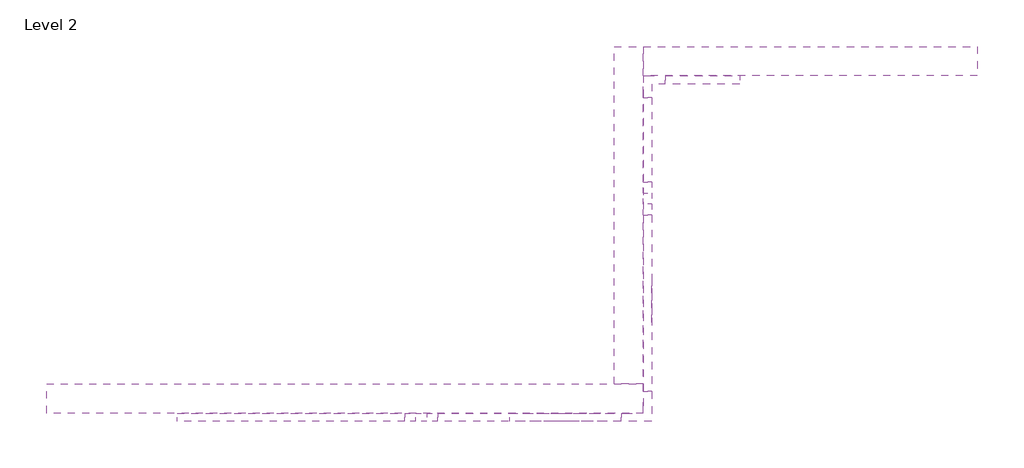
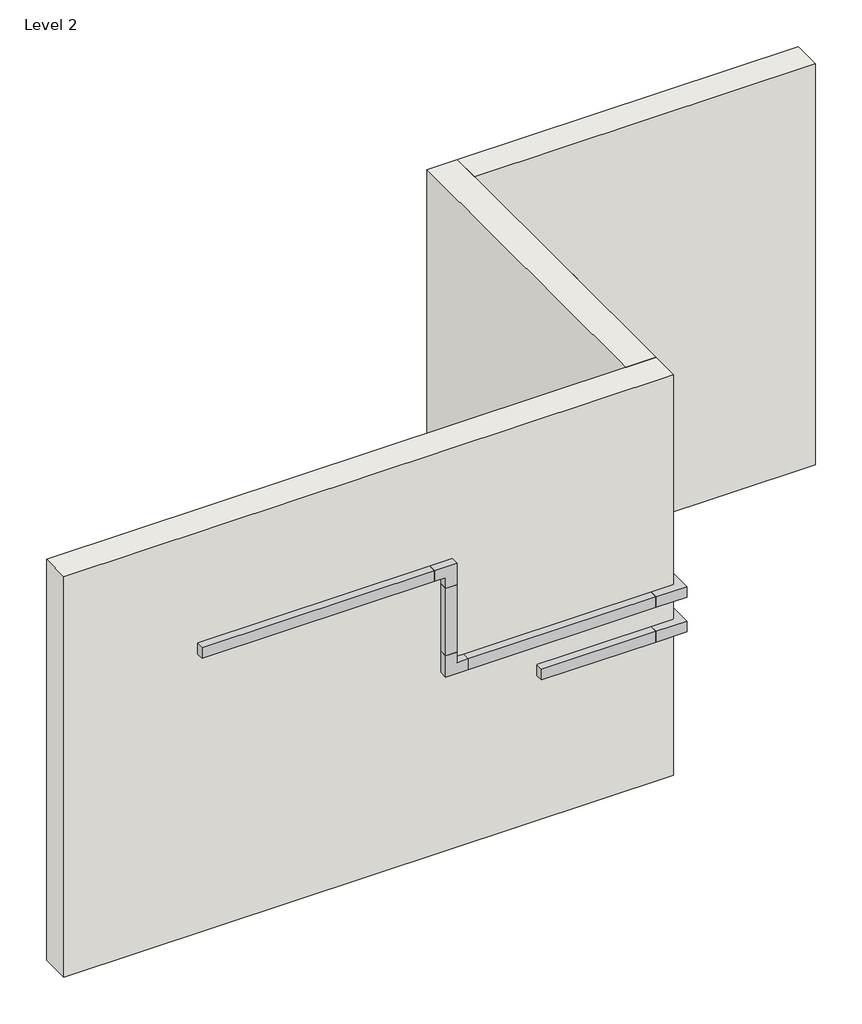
# One storey: 18 proxies, 3 walls.
"""IFC4 building model written with IfcOpenShell, lengths in millimetres."""

from ifc_helpers import new_model, si_unit, frame, origin, place, context, project, spatial, polyline, outline, extrude, faceted_brep, transform, mapped, element, save
from components import duplex_5642bea1, entrance_aea895b1, standard_6c6322a3, standard_3c440130, standard_4d54cb33, standard_987b61e0, standard_dac63bf7, standard_9e2f65c9, standard_67d72ea9, standard_ac4fb43b, standard_d824d0c1, standard_a486ae91, standard_0f524210, standard_84e361b9, standard_bd2f1e62

model = new_model("IFC4")

# Units and contexts
model_context = context("Model", 3, world=origin())
ifc_project = project(units=[si_unit("LENGTHUNIT", "METRE", prefix="MILLI")], contexts=[model_context])

# Site, building, storey
site = spatial("IfcSite", under=ifc_project)
building = spatial("IfcBuilding", under=site)
storey = spatial("IfcBuildingStorey", under=building, Name="Level 2", Elevation=3048.0)

# Proxies
placement = place(None, origin())
duplex_shape = duplex_5642bea1(model_context)
element("IfcBuildingElementProxy", 1, Name="Cover_Plates-ALA3800_Series-Wiremold : Duplex", ObjectType="Cover_Plates-ALA3800_Series-Wiremold : Duplex", at=placement, inside=storey, context=model_context, shape_type="MappedRepresentation", body=[
    mapped(duplex_shape, transform((4605.5797299, 4729.2743897, 6359.3287219), x_axis=(0.0, -1.0, 0.0), y_axis=(0.0, 0.0, -1.0), z_axis=(1.0, 0.0, 0.0))),
])
entrance_shape = entrance_aea895b1(model_context)
element("IfcBuildingElementProxy", 2, Name="End_Cap-ALA3800_Series-Wiremold : Entrance", ObjectType="End_Cap-ALA3800_Series-Wiremold : Entrance", at=placement, inside=storey, context=model_context, shape_type="MappedRepresentation", body=[
    mapped(entrance_shape, transform((4577.0047299, 5434.1243897, 7311.8287219), x_axis=(0.0, -1.0, 0.0), y_axis=(1.0, 0.0, 0.0), z_axis=(0.0, 0.0, 1.0))),
])
standard_shape = standard_6c6322a3(model_context)
element("IfcBuildingElementProxy", 3, Name="Elbow-ALA3800_Series-Wiremold-Horizontal-Flat : Standard", ObjectType="Elbow-ALA3800_Series-Wiremold-Horizontal-Flat : Standard", at=placement, inside=storey, context=model_context, shape_type="MappedRepresentation", body=[
    mapped(standard_shape, transform((3010.4191233, 3948.2243897, 7070.5287219), x_axis=(0.0, 0.0, -1.0), y_axis=(1.0, 0.0, 0.0), z_axis=(0.0, -1.0, 0.0))),
])
element("IfcBuildingElementProxy", 4, Name="Elbow-ALA3800_Series-Wiremold-Horizontal-Flat : Standard", ObjectType="Elbow-ALA3800_Series-Wiremold-Horizontal-Flat : Standard", at=placement, inside=storey, context=model_context, shape_type="MappedRepresentation", body=[
    mapped(standard_shape, transform((3010.4191233, 3948.2243897, 6359.3287219), x_axis=(0.0, 0.0, 1.0), y_axis=(-1.0, 0.0, 0.0), z_axis=(0.0, -1.0, 0.0))),
])
element("IfcBuildingElementProxy", 5, Name="Elbow-ALA3800_Series-Wiremold-Horizontal-Flat : Standard", ObjectType="Elbow-ALA3800_Series-Wiremold-Horizontal-Flat : Standard", at=placement, inside=storey, context=model_context, shape_type="MappedRepresentation", body=[
    mapped(standard_shape, transform((4548.4297299, 5434.1243897, 6359.3287219), x_axis=(0.0, -1.0, 0.0), y_axis=(0.0, 0.0, -1.0), z_axis=(1.0, 0.0, 0.0))),
])
standard_2_shape = standard_3c440130(model_context)
element("IfcBuildingElementProxy", 6, Name="Elbow-ALA3800_Series-Wiremold-Horizontal-External : Standard", ObjectType="Elbow-ALA3800_Series-Wiremold-Horizontal-External : Standard", at=placement, inside=storey, context=model_context, shape_type="MappedRepresentation", body=[
    mapped(standard_2_shape, transform((4472.2297299, 3948.2243897, 6359.3287219), x_axis=(-1.0, 0.0, 0.0), y_axis=(0.0, 0.0, -1.0), z_axis=(0.0, -1.0, 0.0))),
])
element("IfcBuildingElementProxy", 7, Name="Elbow-ALA3800_Series-Wiremold-Horizontal-External : Standard", ObjectType="Elbow-ALA3800_Series-Wiremold-Horizontal-External : Standard", at=placement, inside=storey, context=model_context, shape_type="MappedRepresentation", body=[
    mapped(standard_2_shape, transform((4472.2297299, 3948.2243897, 6111.3024467), x_axis=(-1.0, 0.0, 0.0), y_axis=(0.0, 0.0, -1.0), z_axis=(0.0, -1.0, 0.0))),
])
standard_3_shape = standard_4d54cb33(model_context)
element("IfcBuildingElementProxy", 8, Name="Tee-ALA3800_Series-Wiremold-Flat : Standard", ObjectType="Tee-ALA3800_Series-Wiremold-Flat : Standard", at=placement, inside=storey, context=model_context, shape_type="MappedRepresentation", body=[
    mapped(standard_3_shape, transform((4548.4297299, 5434.1243897, 6930.8287219), x_axis=(0.0, 1.0, 0.0), y_axis=(0.0, 0.0, 1.0), z_axis=(1.0, 0.0, 0.0))),
])
standard_4_shape = standard_987b61e0(model_context)
element("IfcBuildingElementProxy", 9, Name="Elbow-ALA3800_Series-Wiremold-Horizontal-Internal : Standard", ObjectType="Elbow-ALA3800_Series-Wiremold-Horizontal-Internal : Standard", at=placement, inside=storey, context=model_context, shape_type="MappedRepresentation", body=[
    mapped(standard_4_shape, transform((4548.4297299, 6180.2493897, 6930.8287219), x_axis=(0.0, -1.0, 0.0), y_axis=(0.0, 0.0, -1.0), z_axis=(1.0, 0.0, 0.0))),
])
standard_5_shape = standard_dac63bf7(model_context)
element("IfcBuildingElementProxy", 10, Name="Raceway-ALA3800_Series-Wiremold-Steel : Standard", ObjectType="Raceway-ALA3800_Series-Wiremold-Steel : Standard", at=placement, inside=storey, context=model_context, shape_type="MappedRepresentation", body=[
    mapped(standard_5_shape, transform((1321.3191233, 3948.2243897, 7070.5287219), x_axis=(1.0, 0.0, 0.0), y_axis=(0.0, 0.0, 1.0), z_axis=(0.0, -1.0, 0.0))),
])
standard_6_shape = standard_9e2f65c9(model_context)
element("IfcBuildingElementProxy", 11, Name="Raceway-ALA3800_Series-Wiremold-Steel : Standard", ObjectType="Raceway-ALA3800_Series-Wiremold-Steel : Standard", at=placement, inside=storey, context=model_context, shape_type="MappedRepresentation", body=[
    mapped(standard_6_shape, transform((3010.4191233, 3948.2243897, 6956.2287219), x_axis=(0.0, 0.0, -1.0), y_axis=(1.0, 0.0, 0.0), z_axis=(0.0, -1.0, 0.0))),
])
standard_7_shape = standard_67d72ea9(model_context)
element("IfcBuildingElementProxy", 12, Name="Raceway-ALA3800_Series-Wiremold-Steel : Standard", ObjectType="Raceway-ALA3800_Series-Wiremold-Steel : Standard", at=placement, inside=storey, context=model_context, shape_type="MappedRepresentation", body=[
    mapped(standard_7_shape, transform((3124.7191233, 3948.2243897, 6359.3287219), x_axis=(1.0, 0.0, 0.0), y_axis=(0.0, 0.0, 1.0), z_axis=(0.0, -1.0, 0.0))),
])
standard_8_shape = standard_ac4fb43b(model_context)
element("IfcBuildingElementProxy", 13, Name="Raceway-ALA3800_Series-Wiremold-Steel : Standard", ObjectType="Raceway-ALA3800_Series-Wiremold-Steel : Standard", at=placement, inside=storey, context=model_context, shape_type="MappedRepresentation", body=[
    mapped(standard_8_shape, transform((4548.4297299, 5434.1243897, 6473.6287219), x_axis=(0.0, 0.0, 1.0), y_axis=(0.0, -1.0, 0.0), z_axis=(1.0, 0.0, 0.0))),
])
standard_9_shape = standard_d824d0c1(model_context)
element("IfcBuildingElementProxy", 14, Name="Raceway-ALA3800_Series-Wiremold-Steel : Standard", ObjectType="Raceway-ALA3800_Series-Wiremold-Steel : Standard", at=placement, inside=storey, context=model_context, shape_type="MappedRepresentation", body=[
    mapped(standard_9_shape, transform((4548.4297299, 5434.1243897, 7007.0287219), x_axis=(0.0, 0.0, 1.0), y_axis=(0.0, -1.0, 0.0), z_axis=(1.0, 0.0, 0.0))),
])
standard_10_shape = standard_a486ae91(model_context)
element("IfcBuildingElementProxy", 15, Name="Raceway-ALA3800_Series-Wiremold-Steel : Standard", ObjectType="Raceway-ALA3800_Series-Wiremold-Steel : Standard", at=placement, inside=storey, context=model_context, shape_type="MappedRepresentation", body=[
    mapped(standard_10_shape, transform((4548.4297299, 5548.4243897, 6930.8287219), x_axis=(0.0, 1.0, 0.0), y_axis=(0.0, 0.0, 1.0), z_axis=(1.0, 0.0, 0.0))),
])
standard_11_shape = standard_0f524210(model_context)
element("IfcBuildingElementProxy", 16, Name="Raceway-ALA3800_Series-Wiremold-Steel : Standard", ObjectType="Raceway-ALA3800_Series-Wiremold-Steel : Standard", at=placement, inside=storey, context=model_context, shape_type="MappedRepresentation", body=[
    mapped(standard_11_shape, transform((4700.8297299, 6285.0243897, 6930.8287219), x_axis=(1.0, 0.0, 0.0), y_axis=(0.0, 0.0, 1.0), z_axis=(0.0, -1.0, 0.0))),
])
standard_12_shape = standard_84e361b9(model_context)
element("IfcBuildingElementProxy", 17, Name="Raceway-ALA3800_Series-Wiremold-Steel : Standard", ObjectType="Raceway-ALA3800_Series-Wiremold-Steel : Standard", at=placement, inside=storey, context=model_context, shape_type="MappedRepresentation", body=[
    mapped(standard_12_shape, transform((3621.5741307, 3948.2243897, 6111.3024467), x_axis=(1.0, 0.0, 0.0), y_axis=(0.0, 0.0, 1.0), z_axis=(0.0, -1.0, 0.0))),
])
standard_13_shape = standard_bd2f1e62(model_context)
element("IfcBuildingElementProxy", 18, Name="Raceway-ALA3800_Series-Wiremold-Steel : Standard", ObjectType="Raceway-ALA3800_Series-Wiremold-Steel : Standard", at=placement, inside=storey, context=model_context, shape_type="MappedRepresentation", body=[
    mapped(standard_13_shape, transform((4548.4297299, 4100.6243897, 6359.3287219), x_axis=(0.0, 1.0, 0.0), y_axis=(0.0, 0.0, 1.0), z_axis=(1.0, 0.0, 0.0))),
])

# Walls
element("IfcWall", 19, ObjectType="Generic - 8\"", at=placement, inside=storey, context=model_context, shape_type="Brep", body=[
    faceted_brep([(417.7547299, 3948.2243897, 5030.0398365), (4548.4297299, 3948.2243897, 5030.0398365), (4548.4297299, 3948.2243897, 7899.4), (417.7547299, 3948.2243897, 7899.4), (417.7547299, 4151.4243897, 5030.0398365), (417.7547299, 4151.4243897, 7899.4), (4345.2297299, 4151.4243897, 7899.4), (4548.4297299, 4151.4243897, 7899.4), (4548.4297299, 4151.4243897, 5030.0398365), (4345.2297299, 4151.4243897, 5030.0398365)], [[[0, 1, 2, 3]], [[4, 5, 6, 7, 8, 9]], [[1, 0, 4, 9, 8]], [[3, 2, 7, 6, 5]], [[0, 3, 5, 4]], [[2, 1, 8, 7]]]),
])
element("IfcWall", 20, ObjectType="Generic - 8\"", at=placement, inside=storey, context=model_context, shape_type="Brep", body=[
    faceted_brep([(4548.4297299, 4151.4243897, 5030.0398365), (4548.4297299, 6285.0243897, 5030.0398365), (4548.4297299, 6488.2243897, 5030.0398365), (4548.4297299, 6488.2243897, 7899.4), (4548.4297299, 6285.0243897, 7899.4), (4548.4297299, 4151.4243897, 7899.4), (4345.2297299, 4151.4243897, 5030.0398365), (4345.2297299, 4151.4243897, 7899.4), (4345.2297299, 6488.2243897, 7899.4), (4345.2297299, 6488.2243897, 5030.0398365)], [[[0, 1, 2, 3, 4, 5]], [[6, 7, 8, 9]], [[2, 1, 0, 6, 9]], [[5, 4, 3, 8, 7]], [[0, 5, 7, 6]], [[3, 2, 9, 8]]]),
])
element("IfcWall", 21, ObjectType="Generic - 8\"", at=placement, inside=storey, context=model_context, shape_type="SweptSolid", body=[
    extrude(outline(polyline([(6859.8297299, 6285.0243897), (4548.4297299, 6285.0243897), (4548.4297299, 6488.2243897), (6859.8297299, 6488.2243897), (6859.8297299, 6285.0243897)])), frame((0.0, 0.0, 5030.0398365), z_axis=(0.0, 0.0, 1.0), x_axis=(1.0, 0.0, 0.0)), (0.0, 0.0, 1.0), 2869.3601635),
])

save(model, "model.ifc")
